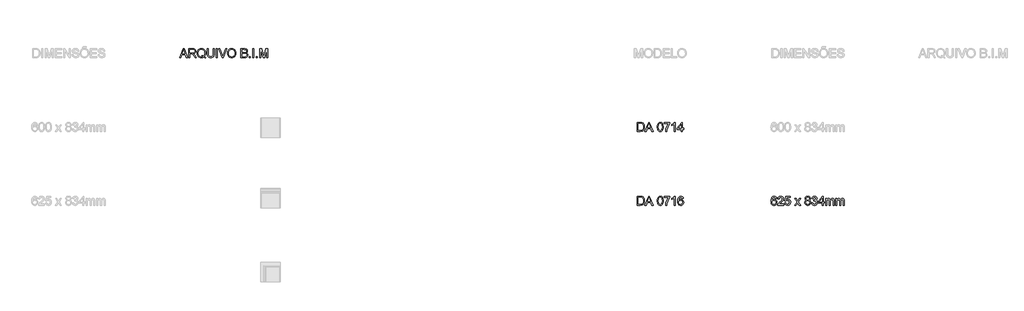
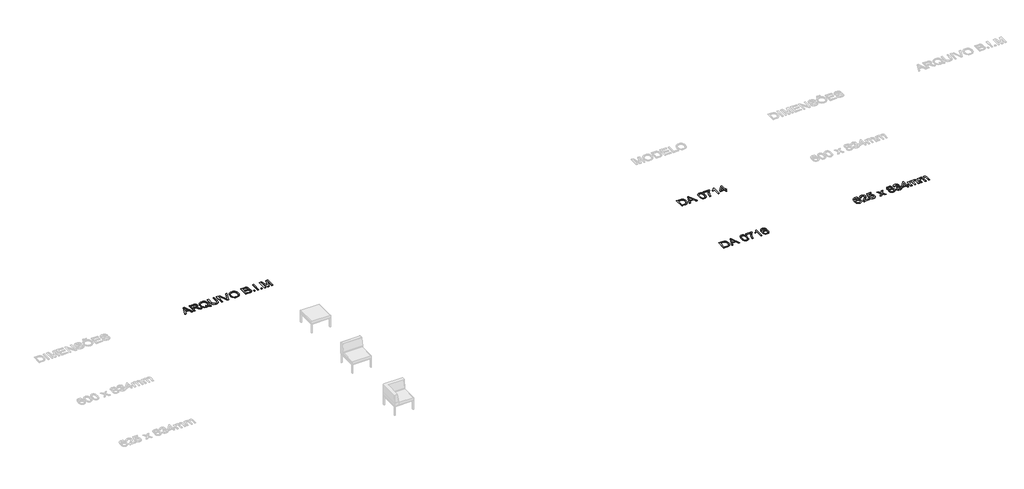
# One storey, part 65 of 67: 4 proxies.
"""IFC4 building model written with IfcOpenShell, lengths in millimetres."""

from ifc_helpers import new_model, si_unit, origin, origin_with_axes, place, context, project, spatial, polyline, outline, extrude, element, save

model = new_model("IFC4")

# Units and contexts
model_context = context("Model", 3, world=origin())
ifc_project = project(units=[si_unit("LENGTHUNIT", "METRE", prefix="MILLI")], contexts=[model_context])

# Site, building, storey
site = spatial("IfcSite", under=ifc_project)
building = spatial("IfcBuilding", under=site)
storey = spatial("IfcBuildingStorey", under=building, Name="Marelli - Linha COLAB - Planta Baixa", Elevation=0.0)

# Proxies
placement = place(None, origin())
element("IfcBuildingElementProxy", 1, Name="300mm Arial", ObjectType="300mm Arial", at=placement, inside=storey, context=model_context, shape_type="SweptSolid", body=[
    extrude(outline(polyline([(24849.4764028, 3940.7514882), (24811.8052865, 3936.0425987), (24805.7352336, 3954.7126099), (24797.5314651, 3967.4597211), (24780.4433464, 3979.2135508), (24759.7867724, 3983.1314941), (24742.2755894, 3980.8506257), (24725.794476, 3974.0080206), (24711.6402163, 3959.5962434), (24700.0795246, 3939.7582068), (24692.2712292, 3911.6980077), (24689.3741585, 3872.6197427), (24704.4849114, 3890.2504873), (24722.5939027, 3902.6757017), (24742.6894566, 3910.0425387), (24763.7598979, 3912.498151), (24781.8596921, 3910.8196894), (24798.5615347, 3905.7843046), (24813.8654257, 3897.3919966), (24827.7713651, 3885.6427654), (24839.3274583, 3871.2355867), (24847.5818105, 3854.8694365), (24852.5344219, 3836.5443146), (24854.1852923, 3816.2602211), (24851.0766895, 3789.2852738), (24841.7508809, 3764.2784951), (24826.9804188, 3743.0700981), (24807.5378553, 3727.4902956), (24784.3061073, 3717.9161667), (24758.1680916, 3714.7247904), (24735.711195, 3716.8401119), (24715.4294008, 3723.1860763), (24697.3227089, 3733.7626836), (24681.3911192, 3748.5699339), (24668.4025855, 3768.2332266), (24659.1250614, 3793.377961), (24653.558547, 3824.0041371), (24651.7030422, 3860.1117549), (24653.7631814, 3900.5925699), (24659.9435989, 3935.1412878), (24670.2442947, 3963.7579085), (24684.665269, 3986.442432), (24700.2956552, 4001.4750101), (24718.418442, 4012.2125658), (24739.0336293, 4018.6550992), (24762.1412171, 4020.8026104), (24795.1954144, 4015.4867156), (24821.664524, 3999.5390311), (24840.2057765, 3974.2103557), (24849.4764028, 3940.7514882)]), holes=[polyline([(24689.3741585, 3816.8488323), (24691.5538593, 3800.1561867), (24698.0929618, 3784.2176993), (24708.2465048, 3770.514095), (24721.2695275, 3760.5260988), (24736.9872857, 3754.4284547), (24755.2250356, 3752.3959067), (24780.0846615, 3756.6081555), (24799.6283924, 3769.2449021), (24812.2927301, 3789.1105298), (24816.514176, 3815.0094223), (24812.3479124, 3839.8690481), (24799.8491216, 3858.8241679), (24779.9742969, 3870.826318), (24753.6799313, 3874.8270347), (24728.8570936, 3870.826318), (24708.099352, 3858.8241679), (24694.0554569, 3840.3289006), (24689.3741585, 3816.8488323)])]), origin_with_axes(), (0.0, 0.0, 1.0), 10.0),
    extrude(outline(polyline([(25080.2119902, 3757.1047962), (25080.2119902, 3719.4336799), (24882.4386296, 3719.4336799), (24886.4853315, 3745.4061488), (24895.7743519, 3765.7040379), (24909.3675916, 3785.3949217), (24929.0308843, 3806.0055104), (24956.5300634, 3829.0625145), (24997.1810239, 3865.1701323), (25021.5716001, 3891.8231829), (25033.7668883, 3913.4546442), (25037.8319843, 3934.4974943), (25033.9968145, 3953.3606436), (25022.4913051, 3969.0416137), (25004.8053782, 3979.609024), (24982.4289559, 3983.1314941), (24958.9304934, 3979.6917974), (24940.6743494, 3969.3727075), (24928.8929285, 3952.9835646), (24924.8186354, 3931.3337092), (24887.1475191, 3936.0425987), (24896.2801896, 3972.4813103), (24904.8265482, 3987.0172476), (24916.0262557, 3999.0975727), (24929.6217947, 4008.5935267), (24945.3556478, 4015.376351), (24983.2382962, 4020.8026104), (25003.42812, 4019.2942942), (25021.3968562, 4014.7693457), (25037.1445048, 4007.2277648), (25050.671066, 3996.6695515), (25061.5350811, 3983.8764551), (25069.295092, 3969.6302249), (25073.9510985, 3953.9308607), (25075.5031006, 3936.7783627), (25073.8292376, 3918.761342), (25068.8076483, 3901.057021), (25059.895707, 3883.0491973), (25046.5507876, 3864.1216686), (25025.2780112, 3841.5245171), (24992.5824989, 3812.5078247), (24949.2459999, 3776.2714482), (24932.2498517, 3757.1047962), (25080.2119902, 3757.1047962)])), origin_with_axes(), (0.0, 0.0, 1.0), 10.0),
    extrude(outline(polyline([(25117.8831065, 3799.4848021), (25155.5542228, 3804.1936916), (25162.4704043, 3781.578146), (25174.5369337, 3765.3821411), (25191.6986288, 3755.6424653), (25213.9003072, 3752.3959067), (25240.9028457, 3756.9116582), (25261.1363554, 3770.4589127), (25273.7731019, 3791.4741716), (25277.9853508, 3818.3939366), (25274.0398164, 3843.7410061), (25262.2032132, 3863.1283872), (25242.3835707, 3875.43404), (25214.4889184, 3879.5359242), (25196.2143803, 3877.8988494), (25181.416327, 3872.9876247), (25160.2631123, 3855.9914765), (25122.591996, 3860.7003661), (25155.5542228, 4016.0937208), (25301.5297985, 4016.0937208), (25301.5297985, 3978.4226045), (25186.014852, 3978.4226045), (25169.9016206, 3895.4284264), (25196.8121885, 3911.762387), (25225.0103435, 3917.2070405), (25243.3561587, 3915.5193819), (25260.2074534, 3910.4564059), (25275.5642274, 3902.0181127), (25289.4264808, 3890.2045021), (25300.9020998, 3875.7375426), (25309.0989705, 3859.3392027), (25314.0170929, 3841.0094823), (25315.6564671, 3820.7483814), (25309.7519611, 3783.0772651), (25302.3713285, 3766.283452), (25292.038443, 3750.8508023), (25276.3850641, 3735.0456721), (25258.119723, 3723.7562934), (25237.2424198, 3716.9826661), (25213.7531544, 3714.7247904), (25176.7534228, 3720.5281289), (25161.074752, 3727.782302), (25147.2768779, 3737.9381443), (25135.7966604, 3750.4898181), (25127.0709593, 3764.9314857), (25117.8831065, 3799.4848021)])), origin_with_axes(), (0.0, 0.0, 1.0), 10.0),
    extrude(outline(polyline([(25452.2142637, 3719.4336799), (25532.7068442, 3830.6811953), (25456.9231532, 3940.7514882), (25502.246215, 3940.7514882), (25538.8136854, 3887.7764809), (25555.8834099, 3862.7605053), (25570.6722661, 3883.2147442), (25612.316508, 3940.7514882), (25657.6395698, 3940.7514882), (25578.029906, 3830.6811953), (25654.6965138, 3719.4336799), (25609.373452, 3719.4336799), (25563.2410498, 3786.3146267), (25554.7797639, 3798.5283089), (25497.5373255, 3719.4336799), (25452.2142637, 3719.4336799)])), origin_with_axes(), (0.0, 0.0, 1.0), 10.0),
    extrude(outline(polyline([(25850.8511937, 3885.4220362), (25830.6820633, 3895.35485), (25816.5278035, 3908.819331), (25808.1676852, 3925.5395677), (25805.3809791, 3945.2396486), (25806.8984923, 3960.6033204), (25811.451032, 3974.6886023), (25819.0385981, 3987.4954942), (25829.6611907, 3999.0239963), (25842.8083735, 4008.5521399), (25857.9697103, 4015.3579569), (25894.3348455, 4020.8026104), (25930.9207099, 4015.2291982), (25946.2475935, 4008.2624329), (25959.5971114, 3998.5089615), (25970.4128421, 3986.7551317), (25978.138364, 3973.7872914), (25982.7736771, 3959.6054405), (25984.3187815, 3944.209579), (25981.5688636, 3925.1440946), (25973.3191099, 3908.7089665), (25959.4775498, 3895.3272589), (25939.9522129, 3885.4220362), (25963.1379756, 3873.4750684), (25980.0145622, 3855.8811119), (25990.306061, 3833.4862955), (25993.7365606, 3807.1367476), (25992.0351064, 3788.3471747), (25986.9307437, 3771.1211003), (25978.4234725, 3755.4585243), (25966.5132929, 3741.3594468), (25951.8256043, 3729.7067846), (25934.985806, 3721.3834545), (25915.993898, 3716.3894564), (25894.8498803, 3714.7247904), (25873.7058626, 3716.3963542), (25854.7139546, 3721.4110457), (25837.8741563, 3729.7688647), (25823.1864676, 3741.4698114), (25811.276288, 3755.6677572), (25802.7690169, 3771.5165734), (25797.6646542, 3789.0162601), (25795.9632, 3808.1668172), (25799.5316553, 3835.5372376), (25810.2370214, 3858.0516157), (25827.5274752, 3874.9373993), (25850.8511937, 3885.4220362)]), holes=[polyline([(25843.0520954, 3944.1360026), (25846.3906245, 3927.6916774), (25856.4062118, 3914.5582902), (25872.8045517, 3905.9498515), (25895.2913387, 3903.0803719), (25917.2538938, 3905.9314574), (25933.4039134, 3914.4847138), (25943.3367273, 3927.1766426), (25946.6476652, 3942.4437454), (25943.2263627, 3958.2902624), (25932.962455, 3971.3960584), (25916.5917062, 3980.1976352), (25894.8498803, 3983.1314941), (25872.9700986, 3980.2620145), (25856.626941, 3971.6535758), (25846.4458068, 3959.0352234), (25843.0520954, 3944.1360026)]), polyline([(25833.6343163, 3809.4911924), (25839.9250984, 3781.1274905), (25848.6347046, 3768.9597935), (25862.1819591, 3759.9006994), (25878.4055551, 3754.2721049), (25895.1441859, 3752.3959067), (25920.7855609, 3756.3414411), (25940.0257893, 3768.1780443), (25952.0555305, 3786.1030945), (25956.0654443, 3808.31397), (25951.9267718, 3830.9019245), (25939.5107545, 3849.2224478), (25919.8290678, 3861.3625537), (25893.8933871, 3865.4092556), (25868.610697, 3861.417736), (25849.5636067, 3849.443177), (25837.6166389, 3831.4721416), (25833.6343163, 3809.4911924)])]), origin_with_axes(), (0.0, 0.0, 1.0), 10.0),
    extrude(outline(polyline([(26026.6987874, 3799.4848021), (26064.3699037, 3804.1936916), (26072.8035984, 3780.5204852), (26085.1552364, 3764.5360125), (26102.0318229, 3755.4309332), (26124.0403633, 3752.3959067), (26149.8656793, 3756.5713673), (26169.8048835, 3769.0977493), (26182.5519946, 3787.7861546), (26186.8010317, 3810.4476855), (26182.5887828, 3831.9595852), (26169.9520363, 3849.4063888), (26150.8221725, 3860.9670805), (26127.130572, 3864.8206444), (26100.7166448, 3860.7003661), (26104.9104995, 3898.3714824), (26110.9437643, 3897.930024), (26133.5133247, 3900.6339567), (26153.6916521, 3908.7457546), (26167.9286853, 3922.4677531), (26172.674363, 3942.002287), (26169.2346664, 3958.2718683), (26158.9155764, 3971.4696348), (26143.170227, 3980.2160293), (26123.4517521, 3983.1314941), (26103.696489, 3980.1884381), (26087.5464694, 3971.3592702), (26075.7558514, 3956.6439904), (26069.0787932, 3936.0425987), (26031.4076769, 3940.7514882), (26042.4993191, 3974.5782377), (26062.2361881, 3999.8333367), (26089.2387265, 4015.5602919), (26122.1273769, 4020.8026104), (26145.8097803, 4018.2182394), (26167.5608033, 4010.4651263), (26185.8997208, 3998.23305), (26199.3458077, 3982.2117891), (26207.5955614, 3963.75331), (26210.3454794, 3944.209579), (26207.7335172, 3925.9994202), (26199.8976307, 3909.4815186), (26186.9481845, 3895.4100323), (26168.9955431, 3884.5391194), (26192.576779, 3875.0109757), (26210.0511738, 3858.7873797), (26220.8669044, 3836.7512482), (26224.472148, 3809.7854979), (26222.6695262, 3790.6740283), (26217.2616609, 3773.0708748), (26208.248552, 3756.9760375), (26195.6301995, 3742.3895164), (26180.2573307, 3730.2861988), (26162.9806725, 3721.6409719), (26143.800225, 3716.4538358), (26122.7159881, 3714.7247904), (26103.6597008, 3716.2009169), (26086.2956706, 3720.6292964), (26070.6238976, 3728.0099289), (26056.6443818, 3738.3428145), (26044.9227417, 3751.0209477), (26036.0245959, 3765.4373234), (26029.9499445, 3781.5919415), (26026.6987874, 3799.4848021)])), origin_with_axes(), (0.0, 0.0, 1.0), 10.0),
    extrude(outline(polyline([(26379.8655027, 3719.4336799), (26379.8655027, 3790.067023), (26243.3077061, 3790.067023), (26243.3077061, 3827.7381393), (26389.2832818, 4016.0937208), (26417.536619, 4016.0937208), (26417.536619, 3827.7381393), (26455.2077353, 3827.7381393), (26455.2077353, 3790.067023), (26417.536619, 3790.067023), (26417.536619, 3719.4336799), (26379.8655027, 3719.4336799)]), holes=[polyline([(26379.8655027, 3827.7381393), (26379.8655027, 3944.1360026), (26289.6608375, 3827.7381393), (26379.8655027, 3827.7381393)])]), origin_with_axes(), (0.0, 0.0, 1.0), 10.0),
    extrude(outline(polyline([(26497.5877412, 3719.4336799), (26497.5877412, 3940.7514882), (26535.2588575, 3940.7514882), (26535.2588575, 3904.3311707), (26546.5896229, 3921.0606044), (26561.15775, 3934.1664005), (26578.4665978, 3942.6368835), (26598.0195259, 3945.4603778), (26618.9704055, 3942.5817012), (26635.7642186, 3933.9456713), (26648.3089946, 3920.1225054), (26656.5127631, 3901.6824203), (26670.2439586, 3920.8352767), (26685.9065345, 3934.5158884), (26703.5004909, 3942.7242554), (26723.0258278, 3945.4603778), (26751.3435444, 3940.9078381), (26772.285227, 3927.250219), (26785.2254762, 3904.1196386), (26789.5388926, 3871.1482147), (26789.5388926, 3719.4336799), (26751.8677763, 3719.4336799), (26751.8677763, 3854.961407), (26748.3728973, 3886.4153175), (26743.4616727, 3895.0881356), (26735.7177567, 3901.9031495), (26725.7573516, 3906.3177335), (26714.1966599, 3907.7892615), (26693.7884063, 3904.018471), (26677.150943, 3892.7060997), (26666.086892, 3873.0795952), (26662.398875, 3844.3664055), (26662.398875, 3719.4336799), (26624.7277587, 3719.4336799), (26624.7277587, 3859.1552617), (26622.5480579, 3880.4556292), (26616.0089554, 3895.6491556), (26604.503446, 3904.754235), (26587.4245244, 3907.7892615), (26572.9115797, 3905.7659105), (26559.5390692, 3899.6958576), (26548.5026093, 3889.7262555), (26540.9978166, 3876.0042571), (26536.6935973, 3856.9663638), (26535.2588575, 3831.0490773), (26535.2588575, 3719.4336799), (26497.5877412, 3719.4336799)])), origin_with_axes(), (0.0, 0.0, 1.0), 10.0),
    extrude(outline(polyline([(26846.045567, 3719.4336799), (26846.045567, 3940.7514882), (26883.7166833, 3940.7514882), (26883.7166833, 3904.3311707), (26895.0474488, 3921.0606044), (26909.6155758, 3934.1664005), (26926.9244237, 3942.6368835), (26946.4773517, 3945.4603778), (26967.4282313, 3942.5817012), (26984.2220444, 3933.9456713), (26996.7668204, 3920.1225054), (27004.9705889, 3901.6824203), (27018.7017844, 3920.8352767), (27034.3643603, 3934.5158884), (27051.9583168, 3942.7242554), (27071.4836537, 3945.4603778), (27099.8013702, 3940.9078381), (27120.7430528, 3927.250219), (27133.683302, 3904.1196386), (27137.9967184, 3871.1482147), (27137.9967184, 3719.4336799), (27100.3256021, 3719.4336799), (27100.3256021, 3854.961407), (27096.8307231, 3886.4153175), (27091.9194985, 3895.0881356), (27084.1755825, 3901.9031495), (27074.2151775, 3906.3177335), (27062.6544858, 3907.7892615), (27042.2462321, 3904.018471), (27025.6087689, 3892.7060997), (27014.5447179, 3873.0795952), (27010.8567009, 3844.3664055), (27010.8567009, 3719.4336799), (26973.1855846, 3719.4336799), (26973.1855846, 3859.1552617), (26971.0058837, 3880.4556292), (26964.4667813, 3895.6491556), (26952.9612719, 3904.754235), (26935.8823502, 3907.7892615), (26921.3694055, 3905.7659105), (26907.996895, 3899.6958576), (26896.9604352, 3889.7262555), (26889.4556424, 3876.0042571), (26885.1514231, 3856.9663638), (26883.7166833, 3831.0490773), (26883.7166833, 3719.4336799), (26846.045567, 3719.4336799)])), origin_with_axes(), (0.0, 0.0, 1.0), 10.0),
])
element("IfcBuildingElementProxy", 2, Name="300mm Arial", ObjectType="300mm Arial", at=placement, inside=storey, context=model_context, shape_type="SweptSolid", body=[
    extrude(outline(polyline([(20124.9464408, 6219.4336799), (20124.9464408, 6520.8026104), (20228.9098926, 6520.8026104), (20282.6942403, 6516.4616028), (20306.7169346, 6508.0922874), (20326.9872325, 6494.9037179), (20347.8277476, 6471.9478814), (20362.6717861, 6443.4002386), (20371.5561363, 6409.8126124), (20374.5175863, 6371.7368259), (20372.5126294, 6339.3908015), (20366.4977588, 6310.9259321), (20357.3374971, 6286.6917057), (20345.8963671, 6267.0376101), (20332.7261917, 6251.522187), (20318.3787938, 6239.7039779), (20301.9068775, 6230.9391893), (20282.3631465, 6224.5840279), (20233.9130878, 6219.4336799), (20124.9464408, 6219.4336799)]), holes=[polyline([(20162.6175571, 6257.1047962), (20229.2777746, 6257.1047962), (20256.8505302, 6258.4659596), (20277.7646216, 6262.5494498), (20293.5467592, 6269.1161434), (20305.7236532, 6277.9269172), (20318.8110552, 6294.2332866), (20328.6427015, 6315.3405161), (20334.7955279, 6341.3405761), (20336.84647, 6372.3254371), (20332.8273592, 6413.3810678), (20320.7700268, 6443.6945442), (20302.9553412, 6464.5166651), (20281.6641707, 6477.0982294), (20259.9959212, 6481.6231779), (20228.247705, 6483.1314941), (20162.6175571, 6483.1314941), (20162.6175571, 6257.1047962)])]), origin_with_axes(), (0.0, 0.0, 1.0), 10.0),
    extrude(outline(polyline([(20391.2194289, 6219.4336799), (20511.5168413, 6520.8026104), (20543.5961513, 6520.8026104), (20663.8935637, 6219.4336799), (20624.0887318, 6219.4336799), (20589.5814007, 6313.6114707), (20465.4580155, 6313.6114707), (20431.0242608, 6219.4336799), (20391.2194289, 6219.4336799)]), holes=[polyline([(20479.2903785, 6351.282587), (20575.8226141, 6351.282587), (20548.6729228, 6425.3740208), (20527.5564963, 6483.1314941), (20508.7945146, 6431.8487439), (20479.2903785, 6351.282587)])]), origin_with_axes(), (0.0, 0.0, 1.0), 10.0),
    extrude(outline(polyline([(20807.7354238, 6367.690124), (20810.5037358, 6415.9286506), (20818.8086719, 6454.3999103), (20832.5674585, 6483.6925141), (20851.6973223, 6504.3950734), (20876.3362189, 6516.7007261), (20906.6221041, 6520.8026104), (20929.835458, 6518.3745892), (20950.6207908, 6511.0905257), (20968.003215, 6499.2355284), (20981.0078436, 6483.0947059), (20990.8302928, 6462.8060138), (20998.6661793, 6438.5074081), (21003.7981332, 6407.6513057), (21005.5087844, 6367.690124), (21002.7680636, 6319.7275089), (20994.545901, 6281.3482197), (20980.8698878, 6252.0280247), (20961.7676152, 6231.242692), (20937.0735363, 6218.8542658), (20906.6221041, 6214.7247904), (20885.8735596, 6216.5182151), (20867.4794598, 6221.8984893), (20851.4398049, 6230.8656129), (20837.7545946, 6243.419586), (20824.6212074, 6266.1133066), (20815.2402165, 6294.3896364), (20809.611622, 6328.2485756), (20807.7354238, 6367.690124)]), holes=[polyline([(20845.4065401, 6367.7637004), (20849.8211241, 6308.507108), (20855.339354, 6288.2391093), (20863.0648759, 6274.211309), (20882.7833508, 6257.8497573), (20906.6221041, 6252.3959067), (20930.4608574, 6257.8681514), (20950.1793324, 6274.2848854), (20957.9048543, 6288.3356784), (20963.4230842, 6308.5990785), (20967.8376681, 6367.7637004), (20963.570237, 6425.6867205), (20958.2359481, 6445.8880406), (20950.7679436, 6460.249234), (20931.0862568, 6477.410929), (20906.1806457, 6483.1314941), (20882.5994098, 6478.0915107), (20863.6534871, 6462.9715607), (20855.6704478, 6447.3365759), (20849.9682769, 6426.2569376), (20845.4065401, 6367.7637004)])]), origin_with_axes(), (0.0, 0.0, 1.0), 10.0),
    extrude(outline(polyline([(21038.4710112, 6478.4226045), (21038.4710112, 6516.0937208), (21236.2443718, 6516.0937208), (21236.2443718, 6485.6330916), (21208.0554139, 6449.9577352), (21180.1423675, 6404.5886881), (21155.521865, 6353.6646229), (21137.2105387, 6301.3242121), (21128.234218, 6262.1631737), (21123.2310229, 6219.4336799), (21085.5599066, 6219.4336799), (21089.6341997, 6258.2636245), (21100.5327038, 6304.4144208), (21117.9611133, 6353.3335291), (21141.6251227, 6400.4684098), (21169.2530605, 6443.0783418), (21198.5732555, 6478.4226045), (21038.4710112, 6478.4226045)])), origin_with_axes(), (0.0, 0.0, 1.0), 10.0),
    extrude(outline(polyline([(21410.4732847, 6219.4336799), (21372.8021684, 6219.4336799), (21372.8021684, 6454.2895457), (21337.1176149, 6428.8688998), (21297.4599358, 6409.8494006), (21297.4599358, 6445.4603778), (21327.0468453, 6461.5552151), (21352.6790233, 6480.7034729), (21372.8849419, 6501.0657413), (21386.193073, 6520.8026104), (21410.4732847, 6520.8026104), (21410.4732847, 6219.4336799)])), origin_with_axes(), (0.0, 0.0, 1.0), 10.0),
    extrude(outline(polyline([(21622.373314, 6219.4336799), (21622.373314, 6290.067023), (21485.8155173, 6290.067023), (21485.8155173, 6327.7381393), (21631.791093, 6516.0937208), (21660.0444303, 6516.0937208), (21660.0444303, 6327.7381393), (21697.7155466, 6327.7381393), (21697.7155466, 6290.067023), (21660.0444303, 6290.067023), (21660.0444303, 6219.4336799), (21622.373314, 6219.4336799)]), holes=[polyline([(21622.373314, 6327.7381393), (21622.373314, 6444.1360026), (21532.1686487, 6327.7381393), (21622.373314, 6327.7381393)])]), origin_with_axes(), (0.0, 0.0, 1.0), 10.0),
])
element("IfcBuildingElementProxy", 3, Name="300mm Arial", ObjectType="300mm Arial", at=placement, inside=storey, context=model_context, shape_type="SweptSolid", body=[
    extrude(outline(polyline([(20124.9464408, 3719.4336799), (20124.9464408, 4020.8026104), (20228.9098926, 4020.8026104), (20282.6942403, 4016.4616028), (20306.7169346, 4008.0922874), (20326.9872325, 3994.9037179), (20347.8277476, 3971.9478814), (20362.6717861, 3943.4002386), (20371.5561363, 3909.8126124), (20374.5175863, 3871.7368259), (20372.5126294, 3839.3908015), (20366.4977588, 3810.9259321), (20357.3374971, 3786.6917057), (20345.8963671, 3767.0376101), (20332.7261917, 3751.522187), (20318.3787938, 3739.7039779), (20301.9068775, 3730.9391893), (20282.3631465, 3724.5840279), (20233.9130878, 3719.4336799), (20124.9464408, 3719.4336799)]), holes=[polyline([(20162.6175571, 3757.1047962), (20229.2777746, 3757.1047962), (20256.8505302, 3758.4659596), (20277.7646216, 3762.5494498), (20293.5467592, 3769.1161434), (20305.7236532, 3777.9269172), (20318.8110552, 3794.2332866), (20328.6427015, 3815.3405161), (20334.7955279, 3841.3405761), (20336.84647, 3872.3254371), (20332.8273592, 3913.3810678), (20320.7700268, 3943.6945442), (20302.9553412, 3964.5166651), (20281.6641707, 3977.0982294), (20259.9959212, 3981.6231779), (20228.247705, 3983.1314941), (20162.6175571, 3983.1314941), (20162.6175571, 3757.1047962)])]), origin_with_axes(), (0.0, 0.0, 1.0), 10.0),
    extrude(outline(polyline([(20391.2194289, 3719.4336799), (20511.5168413, 4020.8026104), (20543.5961513, 4020.8026104), (20663.8935637, 3719.4336799), (20624.0887318, 3719.4336799), (20589.5814007, 3813.6114707), (20465.4580155, 3813.6114707), (20431.0242608, 3719.4336799), (20391.2194289, 3719.4336799)]), holes=[polyline([(20479.2903785, 3851.282587), (20575.8226141, 3851.282587), (20548.6729228, 3925.3740208), (20527.5564963, 3983.1314941), (20508.7945146, 3931.8487439), (20479.2903785, 3851.282587)])]), origin_with_axes(), (0.0, 0.0, 1.0), 10.0),
    extrude(outline(polyline([(20807.7354238, 3867.690124), (20810.5037358, 3915.9286506), (20818.8086719, 3954.3999103), (20832.5674585, 3983.6925141), (20851.6973223, 4004.3950734), (20876.3362189, 4016.7007261), (20906.6221041, 4020.8026104), (20929.835458, 4018.3745892), (20950.6207908, 4011.0905257), (20968.003215, 3999.2355284), (20981.0078436, 3983.0947059), (20990.8302928, 3962.8060138), (20998.6661793, 3938.5074081), (21003.7981332, 3907.6513057), (21005.5087844, 3867.690124), (21002.7680636, 3819.7275089), (20994.545901, 3781.3482197), (20980.8698878, 3752.0280247), (20961.7676152, 3731.242692), (20937.0735363, 3718.8542658), (20906.6221041, 3714.7247904), (20885.8735596, 3716.5182151), (20867.4794598, 3721.8984893), (20851.4398049, 3730.8656129), (20837.7545946, 3743.419586), (20824.6212074, 3766.1133066), (20815.2402165, 3794.3896364), (20809.611622, 3828.2485756), (20807.7354238, 3867.690124)]), holes=[polyline([(20845.4065401, 3867.7637004), (20849.8211241, 3808.507108), (20855.339354, 3788.2391093), (20863.0648759, 3774.211309), (20882.7833508, 3757.8497573), (20906.6221041, 3752.3959067), (20930.4608574, 3757.8681514), (20950.1793324, 3774.2848854), (20957.9048543, 3788.3356784), (20963.4230842, 3808.5990785), (20967.8376681, 3867.7637004), (20963.570237, 3925.6867205), (20958.2359481, 3945.8880406), (20950.7679436, 3960.249234), (20931.0862568, 3977.410929), (20906.1806457, 3983.1314941), (20882.5994098, 3978.0915107), (20863.6534871, 3962.9715607), (20855.6704478, 3947.3365759), (20849.9682769, 3926.2569376), (20845.4065401, 3867.7637004)])]), origin_with_axes(), (0.0, 0.0, 1.0), 10.0),
    extrude(outline(polyline([(21038.4710112, 3978.4226045), (21038.4710112, 4016.0937208), (21236.2443718, 4016.0937208), (21236.2443718, 3985.6330916), (21208.0554139, 3949.9577352), (21180.1423675, 3904.5886881), (21155.521865, 3853.6646229), (21137.2105387, 3801.3242121), (21128.234218, 3762.1631737), (21123.2310229, 3719.4336799), (21085.5599066, 3719.4336799), (21089.6341997, 3758.2636245), (21100.5327038, 3804.4144208), (21117.9611133, 3853.3335291), (21141.6251227, 3900.4684098), (21169.2530605, 3943.0783418), (21198.5732555, 3978.4226045), (21038.4710112, 3978.4226045)])), origin_with_axes(), (0.0, 0.0, 1.0), 10.0),
    extrude(outline(polyline([(21410.4732847, 3719.4336799), (21372.8021684, 3719.4336799), (21372.8021684, 3954.2895457), (21337.1176149, 3928.8688998), (21297.4599358, 3909.8494006), (21297.4599358, 3945.4603778), (21327.0468453, 3961.5552151), (21352.6790233, 3980.7034729), (21372.8849419, 4001.0657413), (21386.193073, 4020.8026104), (21410.4732847, 4020.8026104), (21410.4732847, 3719.4336799)])), origin_with_axes(), (0.0, 0.0, 1.0), 10.0),
    extrude(outline(polyline([(21693.006657, 3940.7514882), (21655.3355407, 3936.0425987), (21649.2654878, 3954.7126099), (21641.0617193, 3967.4597211), (21623.9736006, 3979.2135508), (21603.3170266, 3983.1314941), (21585.8058436, 3980.8506257), (21569.3247302, 3974.0080206), (21555.1704705, 3959.5962434), (21543.6097788, 3939.7582068), (21535.8014834, 3911.6980077), (21532.9044127, 3872.6197427), (21548.0151657, 3890.2504873), (21566.1241569, 3902.6757017), (21586.2197109, 3910.0425387), (21607.2901521, 3912.498151), (21625.3899463, 3910.8196894), (21642.0917889, 3905.7843046), (21657.3956799, 3897.3919966), (21671.3016193, 3885.6427654), (21682.8577125, 3871.2355867), (21691.1120647, 3854.8694365), (21696.0646761, 3836.5443146), (21697.7155466, 3816.2602211), (21694.6069437, 3789.2852738), (21685.2811351, 3764.2784951), (21670.510673, 3743.0700981), (21651.0681096, 3727.4902956), (21627.8363616, 3717.9161667), (21601.6983458, 3714.7247904), (21579.2414493, 3716.8401119), (21558.959655, 3723.1860763), (21540.8529631, 3733.7626836), (21524.9213734, 3748.5699339), (21511.9328397, 3768.2332266), (21502.6553157, 3793.377961), (21497.0888012, 3824.0041371), (21495.2332964, 3860.1117549), (21497.2934356, 3900.5925699), (21503.4738531, 3935.1412878), (21513.774549, 3963.7579085), (21528.1955232, 3986.442432), (21543.8259095, 4001.4750101), (21561.9486962, 4012.2125658), (21582.5638835, 4018.6550992), (21605.6714714, 4020.8026104), (21638.7256686, 4015.4867156), (21665.1947782, 3999.5390311), (21683.7360307, 3974.2103557), (21693.006657, 3940.7514882)]), holes=[polyline([(21532.9044127, 3816.8488323), (21535.0841135, 3800.1561867), (21541.623216, 3784.2176993), (21551.7767591, 3770.514095), (21564.7997817, 3760.5260988), (21580.5175399, 3754.4284547), (21598.7552899, 3752.3959067), (21623.6149157, 3756.6081555), (21643.1586467, 3769.2449021), (21655.8229844, 3789.1105298), (21660.0444303, 3815.0094223), (21655.8781667, 3839.8690481), (21643.3793759, 3858.8241679), (21623.5045511, 3870.826318), (21597.2101855, 3874.8270347), (21572.3873479, 3870.826318), (21551.6296063, 3858.8241679), (21537.5857111, 3840.3289006), (21532.9044127, 3816.8488323)])]), origin_with_axes(), (0.0, 0.0, 1.0), 10.0),
])
element("IfcBuildingElementProxy", 4, Name="300mm Arial", ObjectType="300mm Arial", at=placement, inside=storey, context=model_context, shape_type="SweptSolid", body=[
    extrude(outline(polyline([(4649.579499, 8719.4336799), (4769.8769114, 9020.8026104), (4801.9562214, 9020.8026104), (4922.2536338, 8719.4336799), (4882.448802, 8719.4336799), (4847.9414708, 8813.6114707), (4723.8180857, 8813.6114707), (4689.3843309, 8719.4336799), (4649.579499, 8719.4336799)]), holes=[polyline([(4737.6504487, 8851.282587), (4834.1826842, 8851.282587), (4807.032993, 8925.3740208), (4785.9165664, 8983.1314941), (4767.1545847, 8931.8487439), (4737.6504487, 8851.282587)])]), origin_with_axes(), (0.0, 0.0, 1.0), 10.0),
    extrude(outline(polyline([(4962.4999241, 8719.4336799), (4962.4999241, 9020.8026104), (5092.3622684, 9020.8026104), (5127.2650727, 9018.7700624), (5152.6581274, 9012.6724183), (5171.2177741, 9001.4152292), (5185.6203542, 8983.9040463), (5194.8633893, 8962.1898115), (5197.944401, 8938.3234671), (5192.8400384, 8908.6353901), (5177.5269503, 8884.0240846), (5165.9271711, 8873.9947017), (5151.5452844, 8865.9794727), (5114.4351881, 8855.9914765), (5135.8459202, 8839.8782452), (5166.3801258, 8801.1034829), (5216.6328064, 8719.4336799), (5172.854849, 8719.4336799), (5133.6386283, 8781.9000427), (5105.3117146, 8823.249979), (5085.4092987, 8842.7845129), (5067.4934455, 8849.9582118), (5045.641255, 8851.282587), (5000.1710404, 8851.282587), (5000.1710404, 8719.4336799), (4962.4999241, 8719.4336799)]), holes=[polyline([(5000.1710404, 8888.9537033), (5084.4895937, 8888.9537033), (5108.7054261, 8890.2872755), (5127.494999, 8894.2879922), (5141.6400617, 8901.2225678), (5151.9223634, 8911.3577168), (5158.1855544, 8923.6173843), (5160.2732847, 8936.9255155), (5156.2909621, 8955.3012211), (5144.3439943, 8970.1084714), (5123.7885879, 8979.8757384), (5093.9809492, 8983.1314941), (5000.1710404, 8983.1314941), (5000.1710404, 8888.9537033)])]), origin_with_axes(), (0.0, 0.0, 1.0), 10.0),
    extrude(outline(polyline([(5490.2634344, 8755.5596919), (5514.5988284, 8736.963257), (5536.9844478, 8724.1425695), (5526.8309047, 8696.5514198), (5495.7632702, 8710.9539999), (5464.8060003, 8731.794515), (5429.9491813, 8718.9922215), (5391.5974833, 8714.7247904), (5353.0618443, 8719.6452121), (5318.2418135, 8734.4064771), (5289.0779683, 8758.0796835), (5267.5108863, 8789.7359292), (5254.184361, 8827.6369718), (5249.742186, 8870.0445688), (5254.175164, 8912.488954), (5267.4740981, 8950.9418195), (5288.9584066, 8983.0487206), (5317.9475079, 9006.4552126), (5352.63878, 9020.7474281), (5391.2296013, 9025.5114999), (5430.1239252, 9020.6370635), (5464.9899413, 9006.0137542), (5493.9330573, 8982.6164593), (5515.0586809, 8951.4200661), (5527.9713389, 8914.0800436), (5532.2755583, 8872.2518607), (5529.6635961, 8837.4686181), (5521.8277096, 8806.4009836), (5508.7127165, 8779.0857454), (5490.2634344, 8755.5596919)]), holes=[polyline([(5401.9717556, 8805.6652196), (5433.6463953, 8793.6906607), (5459.214194, 8777.0440004), (5474.6974275, 8794.5183951), (5485.75688, 8815.8923391), (5492.3925514, 8841.1658321), (5494.6044419, 8870.3388744), (5491.477445, 8903.4942392), (5482.0964541, 8932.1798377), (5466.6913956, 8955.6691031), (5445.4921956, 8973.2354684), (5419.933594, 8984.1891548), (5391.4503305, 8987.8403836), (5369.966022, 8985.9940758), (5350.3946998, 8980.4551526), (5332.7363641, 8971.2236137), (5316.9910147, 8958.2994594), (5304.0507655, 8941.7102807), (5294.8077304, 8921.4836687), (5289.2619093, 8897.6196236), (5287.4133023, 8870.1181452), (5289.2412159, 8843.3340366), (5294.7249569, 8819.8562676), (5303.8645252, 8799.6848379), (5316.6599209, 8782.8197477), (5332.2972049, 8769.5093173), (5349.9624385, 8760.0018669), (5369.6556215, 8754.2973968), (5391.3767541, 8752.3959067), (5412.2908455, 8754.3272872), (5431.91735, 8760.1214286), (5412.6219393, 8770.146213), (5392.2596709, 8776.8232712), (5401.9717556, 8805.6652196)])]), origin_with_axes(), (0.0, 0.0, 1.0), 10.0),
    extrude(outline(polyline([(5786.5555933, 9020.8026104), (5824.2267096, 9020.8026104), (5824.2267096, 8846.9415795), (5821.6699298, 8806.2262396), (5813.9995902, 8774.8734966), (5799.6705864, 8750.6852554), (5777.1378142, 8731.4634212), (5746.3460912, 8718.9094481), (5707.2402352, 8714.7247904), (5668.9897047, 8718.3668221), (5638.4095139, 8729.2929174), (5615.4904656, 8747.1259971), (5600.2233628, 8771.4889822), (5591.6425152, 8804.1661005), (5588.7822327, 8846.9415795), (5588.7822327, 9020.8026104), (5626.453349, 9020.8026104), (5626.453349, 8848.2659546), (5628.3111531, 8814.411614), (5633.8845653, 8790.8395752), (5643.9829261, 8774.5148117), (5659.4155758, 8762.402297), (5679.5387209, 8754.8975043), (5703.708568, 8752.3959067), (5742.0234778, 8757.3439195), (5756.3662771, 8763.5289356), (5767.499306, 8772.187958), (5775.8364317, 8784.3648521), (5781.7915215, 8801.1034829), (5786.5555933, 8848.2659546), (5786.5555933, 9020.8026104)])), origin_with_axes(), (0.0, 0.0, 1.0), 10.0),
    extrude(outline(polyline([(5894.8600527, 8719.4336799), (5894.8600527, 9020.8026104), (5932.531169, 9020.8026104), (5932.531169, 8719.4336799), (5894.8600527, 8719.4336799)])), origin_with_axes(), (0.0, 0.0, 1.0), 10.0),
    extrude(outline(polyline([(6096.9008444, 8719.4336799), (5976.971314, 9020.8026104), (6017.2911807, 9020.8026104), (6097.563032, 8803.6786568), (6113.8234162, 8754.7503515), (6129.8630712, 8803.6786568), (6210.3556518, 9020.8026104), (6250.6755184, 9020.8026104), (6135.8227595, 8719.4336799), (6096.9008444, 8719.4336799)])), origin_with_axes(), (0.0, 0.0, 1.0), 10.0),
    extrude(outline(polyline([(6271.5712158, 8866.1450196), (6274.0820104, 8901.4938808), (6281.6143942, 8932.786843), (6294.1683673, 8960.0239063), (6311.7439296, 8983.2050705), (6333.288019, 9001.7141334), (6357.7475731, 9014.9348926), (6385.1225921, 9022.8673481), (6415.4130759, 9025.5114999), (6454.9419963, 9020.545093), (6490.3874265, 9005.6458722), (6519.8179861, 8981.8623012), (6541.3022946, 8950.2428437), (6554.4356819, 8912.31421), (6558.8134776, 8869.6031104), (6554.2057556, 8826.3217936), (6540.3825896, 8787.859731), (6518.1073348, 8756.1850913), (6488.1433463, 8733.266043), (6453.0014187, 8719.3601035), (6415.1923467, 8714.7247904), (6375.056421, 8719.8475472), (6339.4086557, 8735.2158175), (6310.0516725, 8759.4408469), (6288.7880931, 8791.1338808), (6275.8754351, 8827.6001836), (6271.5712158, 8866.1450196)]), holes=[polyline([(6309.2423321, 8865.7771376), (6311.125428, 8840.8025487), (6316.7747159, 8818.6330599), (6326.1901957, 8799.2686714), (6339.3718675, 8782.7093831), (6355.3954276, 8769.4472372), (6373.3365727, 8759.9742758), (6393.1953026, 8754.290499), (6414.9716175, 8752.3959067), (6437.1204129, 8754.3088931), (6457.2136676, 8760.0478522), (6475.2513817, 8769.6127841), (6491.2335551, 8783.0036887), (6504.3186578, 8799.9124649), (6513.6651597, 8820.0310115), (6519.2730609, 8843.3593285), (6521.1423613, 8869.897416), (6517.9417879, 8903.2459188), (6508.3400679, 8932.0694731), (6492.5855214, 8955.641512), (6470.9264689, 8973.2354684), (6444.7976502, 8984.1891548), (6415.6338051, 8987.8403836), (6394.6139476, 8986.0814478), (6375.1116033, 8980.8046405), (6357.1267723, 8972.0099615), (6340.6594545, 8959.697411), (6326.9144634, 8943.2737792), (6317.0966127, 8922.1458563), (6311.2059022, 8896.3136425), (6309.2423321, 8865.7771376)])]), origin_with_axes(), (0.0, 0.0, 1.0), 10.0),
    extrude(outline(polyline([(6728.333501, 8719.4336799), (6728.333501, 9020.8026104), (6843.3334127, 9020.8026104), (6874.9620672, 9018.5861214), (6899.6561461, 9011.9366543), (6918.5836748, 9000.6886623), (6932.9126785, 8984.6765985), (6941.9349844, 8965.8410403), (6944.9424197, 8946.1225654), (6942.413231, 8927.9767859), (6934.8256649, 8910.9162584), (6922.124539, 8895.9894465), (6904.2546711, 8884.2448138), (6925.6010238, 8873.0979893), (6941.3739644, 8856.1386293), (6951.1136402, 8834.4887739), (6954.3601988, 8809.2704632), (6952.1437098, 8788.2552042), (6945.4942427, 8768.7666555), (6935.5706259, 8752.1935716), (6923.5316876, 8739.9247071), (6908.7888167, 8731.0403569), (6890.7534018, 8724.6208161), (6842.4504959, 8719.4336799), (6728.333501, 8719.4336799)]), holes=[polyline([(6766.0046173, 8898.3714824), (6834.7985504, 8898.3714824), (6874.9712642, 8901.6088439), (6889.0335535, 8907.1914532), (6899.1411113, 8915.5515716), (6905.2387554, 8926.5604403), (6907.2713034, 8940.0893006), (6905.3767111, 8953.2226879), (6899.6929343, 8964.6638179), (6890.4774903, 8973.5941533), (6877.9878966, 8979.1951567), (6829.574626, 8983.1314941), (6766.0046173, 8983.1314941), (6766.0046173, 8898.3714824)]), polyline([(6766.0046173, 8757.1047962), (6843.2598363, 8757.1047962), (6871.2188679, 8758.5763242), (6894.8736802, 8766.7800927), (6910.5454532, 8783.5187235), (6915.1531752, 8795.3461296), (6916.6890825, 8808.9025812), (6914.8864607, 8824.6479306), (6909.4785954, 8838.185988), (6900.0332252, 8848.7717924), (6886.1180887, 8855.6603827), (6866.4088108, 8859.4403702), (6839.5810163, 8860.7003661), (6766.0046173, 8860.7003661), (6766.0046173, 8757.1047962)])]), origin_with_axes(), (0.0, 0.0, 1.0), 10.0),
    extrude(outline(polyline([(7010.8668733, 8719.4336799), (7010.8668733, 8757.1047962), (7048.5379896, 8757.1047962), (7048.5379896, 8719.4336799), (7010.8668733, 8719.4336799)])), origin_with_axes(), (0.0, 0.0, 1.0), 10.0),
    extrude(outline(polyline([(7128.5891117, 8719.4336799), (7128.5891117, 9020.8026104), (7166.260228, 9020.8026104), (7166.260228, 8719.4336799), (7128.5891117, 8719.4336799)])), origin_with_axes(), (0.0, 0.0, 1.0), 10.0),
    extrude(outline(polyline([(7246.3113502, 8719.4336799), (7246.3113502, 8757.1047962), (7283.9824665, 8757.1047962), (7283.9824665, 8719.4336799), (7246.3113502, 8719.4336799)])), origin_with_axes(), (0.0, 0.0, 1.0), 10.0),
    extrude(outline(polyline([(7359.3246991, 8719.4336799), (7359.3246991, 9020.8026104), (7424.1455066, 9020.8026104), (7485.802529, 8808.3875464), (7498.2369405, 8764.0209777), (7511.7014215, 8812.0663663), (7572.3283743, 9020.8026104), (7637.1491819, 9020.8026104), (7637.1491819, 8719.4336799), (7599.4780655, 8719.4336799), (7599.4780655, 8983.1314941), (7523.7679509, 8719.4336799), (7472.70593, 8719.4336799), (7396.9958154, 8983.1314941), (7396.9958154, 8719.4336799), (7359.3246991, 8719.4336799)])), origin_with_axes(), (0.0, 0.0, 1.0), 10.0),
])

save(model, "model.ifc")
